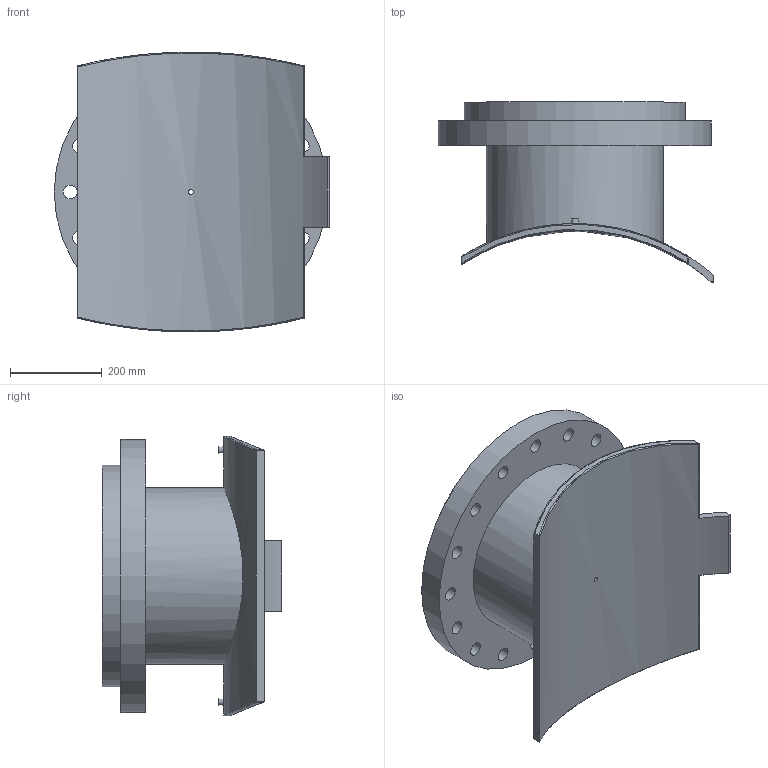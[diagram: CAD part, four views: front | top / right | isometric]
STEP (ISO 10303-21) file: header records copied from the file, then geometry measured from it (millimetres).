
FILE_DESCRIPTION(/* description */ ('PLASSON FLANGED BRANCH SADDLE 900X400'),/* implementation_level */ '2;1');
FILE_NAME(/* name */ 'C:\Dropbox\KIMPROJECTS-Inventor 2019\99-16-3568-Processing\ElectroFusion Fittings\495904_495903\stp\495903900400T.stp',/* time_stamp */ '2024-04-03T21:07:59+02:00',/* author */ ('KIM'),/* organization */ (''),/* preprocessor_version */ 'ST-DEVELOPER v17.2',/* originating_system */ 'Autodesk Inventor 2019',/* authorisation */ '');
FILE_SCHEMA (('AUTOMOTIVE_DESIGN { 1 0 10303 214 3 1 1 }'));
Length unit declared in the file: millimetre
Products named in the file (1): 495903900400T
Bounding box: 600 x 391.84 x 609.54 mm (x, y, z)
Volume: 24857788.3 mm3; surface area: 1750699.6 mm2
Topology: 1 solids, 1 shells, 67 faces, 178 edges, 136 vertices
Faces by surface type: cylinder 40, plane 17, sphere 4, bspline 4, cone 2
Full cylindrical faces by diameter (mm): 4 x2, 10 x2, 10.4 x1, 16 x1, 30 x16, 327 x1, 385.6 x1, 482 x1, 595 x1
Entity records: 2802 total; most frequent: CARTESIAN_POINT 1013, DIRECTION 360, ORIENTED_EDGE 328, EDGE_CURVE 164, AXIS2_PLACEMENT_3D 152, EDGE_LOOP 112, VERTEX_POINT 110, CIRCLE 88
